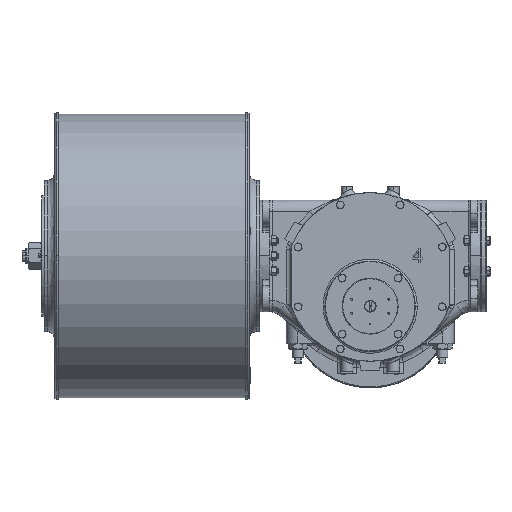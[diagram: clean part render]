
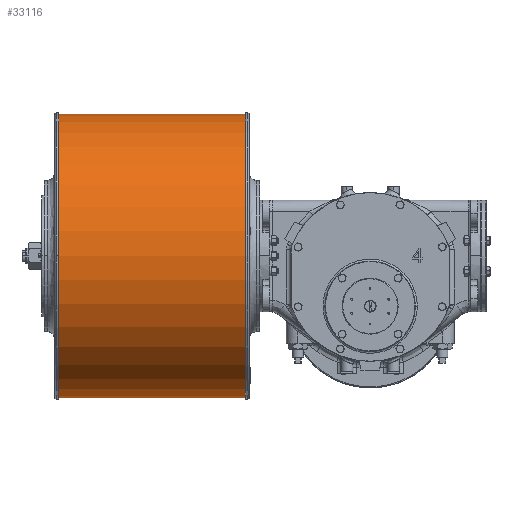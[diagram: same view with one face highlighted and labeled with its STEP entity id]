
A CAD part, top view. The second image highlights one B-rep face of the part: STEP entity #33116.
In plain terms, the highlighted cylindrical face has radius 304.8 mm (diameter 609.6 mm), a partial arc.
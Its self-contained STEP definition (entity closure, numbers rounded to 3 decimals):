
#1028 = VERTEX_POINT ( 'NONE', #28123 ) ;
#1427 = ORIENTED_EDGE ( 'NONE', *, *, #50425, .F. ) ;
#1638 = CIRCLE ( 'NONE', #30337, 304.8 ) ;
#2208 = AXIS2_PLACEMENT_3D ( 'NONE', #9902, #20564, #36568 ) ;
#2210 = EDGE_CURVE ( 'NONE', #1028, #14265, #16884, .T. ) ;
#4233 = DIRECTION ( 'NONE',  ( -1., 0., 0. ) ) ;
#7110 = EDGE_CURVE ( 'NONE', #14265, #21484, #57771, .T. ) ;
#9902 = CARTESIAN_POINT ( 'NONE',  ( -268.5, 108., 82.5 ) ) ;
#12102 = CARTESIAN_POINT ( 'NONE',  ( -268.5, 412.8, 82.5 ) ) ;
#14265 = VERTEX_POINT ( 'NONE', #58240 ) ;
#15573 = FACE_OUTER_BOUND ( 'NONE', #39800, .T. ) ;
#16227 = CYLINDRICAL_SURFACE ( 'NONE', #2208, 304.8 ) ;
#16884 = CIRCLE ( 'NONE', #25396, 304.8 ) ;
#19692 = CARTESIAN_POINT ( 'NONE',  ( -668.5, 412.8, 82.5 ) ) ;
#20564 = DIRECTION ( 'NONE',  ( -1., 0., 0. ) ) ;
#21484 = VERTEX_POINT ( 'NONE', #19692 ) ;
#22876 = DIRECTION ( 'NONE',  ( -1., 0., 0. ) ) ;
#25396 = AXIS2_PLACEMENT_3D ( 'NONE', #48226, #22876, #63570 ) ;
#28123 = CARTESIAN_POINT ( 'NONE',  ( -268.5, -196.8, 82.5 ) ) ;
#30337 = AXIS2_PLACEMENT_3D ( 'NONE', #38962, #54276, #64951 ) ;
#31315 = EDGE_CURVE ( 'NONE', #21484, #61772, #1638, .T. ) ;
#33116 = ADVANCED_FACE ( 'NONE', ( #15573 ), #16227, .T. ) ;
#36568 = DIRECTION ( 'NONE',  ( 0., -1., 0. ) ) ;
#37088 = ORIENTED_EDGE ( 'NONE', *, *, #31315, .T. ) ;
#37263 = VECTOR ( 'NONE', #37789, 1000. ) ;
#37789 = DIRECTION ( 'NONE',  ( -1., 0., 0. ) ) ;
#38962 = CARTESIAN_POINT ( 'NONE',  ( -668.5, 108., 82.5 ) ) ;
#39800 = EDGE_LOOP ( 'NONE', ( #61027, #49256, #37088, #1427 ) ) ;
#48226 = CARTESIAN_POINT ( 'NONE',  ( -268.5, 108., 82.5 ) ) ;
#49238 = LINE ( 'NONE', #54578, #60851 ) ;
#49256 = ORIENTED_EDGE ( 'NONE', *, *, #7110, .T. ) ;
#50425 = EDGE_CURVE ( 'NONE', #1028, #61772, #49238, .T. ) ;
#54276 = DIRECTION ( 'NONE',  ( 1., 0., 0. ) ) ;
#54578 = CARTESIAN_POINT ( 'NONE',  ( -268.5, -196.8, 82.5 ) ) ;
#57771 = LINE ( 'NONE', #12102, #37263 ) ;
#58240 = CARTESIAN_POINT ( 'NONE',  ( -268.5, 412.8, 82.5 ) ) ;
#60382 = CARTESIAN_POINT ( 'NONE',  ( -668.5, -196.8, 82.5 ) ) ;
#60851 = VECTOR ( 'NONE', #4233, 1000. ) ;
#61027 = ORIENTED_EDGE ( 'NONE', *, *, #2210, .T. ) ;
#61772 = VERTEX_POINT ( 'NONE', #60382 ) ;
#63570 = DIRECTION ( 'NONE',  ( 0., -1., 0. ) ) ;
#64951 = DIRECTION ( 'NONE',  ( 0., -1., 0. ) ) ;
